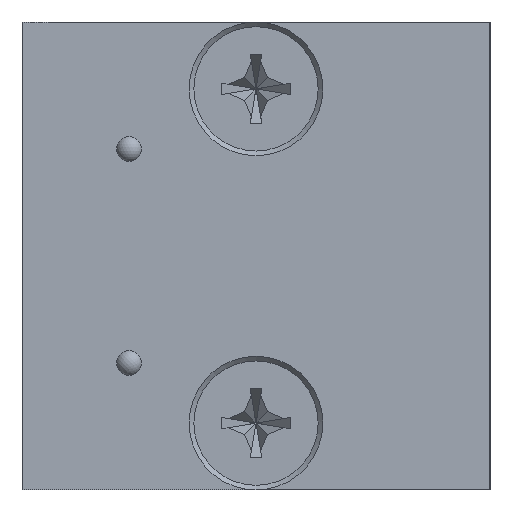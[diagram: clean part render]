
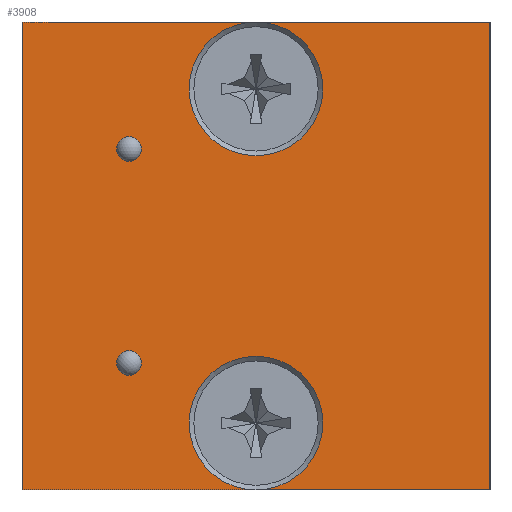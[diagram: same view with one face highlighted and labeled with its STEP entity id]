
A CAD part, left-side view. The second image highlights one B-rep face of the part: STEP entity #3908.
In plain terms, the highlighted planar face has unit normal (-1, 0, 0).
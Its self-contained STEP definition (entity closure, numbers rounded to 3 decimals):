
#55=LINE('',#5435,#360);
#57=LINE('',#5493,#362);
#60=LINE('',#5499,#365);
#61=LINE('',#5505,#366);
#62=LINE('',#5506,#367);
#63=LINE('',#5508,#368);
#360=VECTOR('',#4496,1000.);
#362=VECTOR('',#4514,1000.);
#365=VECTOR('',#4517,1000.);
#366=VECTOR('',#4526,1000.);
#367=VECTOR('',#4527,1000.);
#368=VECTOR('',#4528,1000.);
#665=PLANE('',#4169);
#929=ORIENTED_EDGE('',*,*,#1789,.T.);
#930=ORIENTED_EDGE('',*,*,#1788,.T.);
#931=ORIENTED_EDGE('',*,*,#1776,.T.);
#932=ORIENTED_EDGE('',*,*,#1791,.T.);
#933=ORIENTED_EDGE('',*,*,#1772,.T.);
#934=ORIENTED_EDGE('',*,*,#1792,.T.);
#935=ORIENTED_EDGE('',*,*,#1793,.T.);
#936=ORIENTED_EDGE('',*,*,#1785,.T.);
#937=ORIENTED_EDGE('',*,*,#1780,.T.);
#938=ORIENTED_EDGE('',*,*,#1794,.T.);
#1772=EDGE_CURVE('',#2258,#2258,#2597,.T.);
#1776=EDGE_CURVE('',#2263,#2262,#55,.T.);
#1780=EDGE_CURVE('',#2265,#2265,#2599,.T.);
#1785=EDGE_CURVE('',#2268,#2269,#57,.T.);
#1788=EDGE_CURVE('',#2269,#2263,#60,.T.);
#1789=EDGE_CURVE('',#2269,#2269,#2601,.T.);
#1791=EDGE_CURVE('',#2262,#2258,#61,.T.);
#1792=EDGE_CURVE('',#2258,#2272,#62,.T.);
#1793=EDGE_CURVE('',#2272,#2268,#63,.T.);
#1794=EDGE_CURVE('',#2273,#2273,#2603,.T.);
#2258=VERTEX_POINT('',#5426);
#2262=VERTEX_POINT('',#5434);
#2263=VERTEX_POINT('',#5436);
#2265=VERTEX_POINT('',#5460);
#2268=VERTEX_POINT('',#5494);
#2269=VERTEX_POINT('',#5495);
#2272=VERTEX_POINT('',#5507);
#2273=VERTEX_POINT('',#5510);
#2597=CIRCLE('',#4155,5.);
#2599=CIRCLE('',#4160,0.925);
#2601=CIRCLE('',#4167,5.);
#2603=CIRCLE('',#4170,0.925);
#2724=EDGE_LOOP('',(#929,#930,#931,#932,#933,#934,#935,#936));
#2725=EDGE_LOOP('',(#937));
#2726=EDGE_LOOP('',(#938));
#3007=FACE_BOUND('',#2724,.T.);
#3008=FACE_BOUND('',#2725,.T.);
#3009=FACE_BOUND('',#2726,.T.);
#3908=ADVANCED_FACE('',(#3007,#3008,#3009),#665,.T.);
#4155=AXIS2_PLACEMENT_3D('',#5425,#4488,#4489);
#4160=AXIS2_PLACEMENT_3D('',#5459,#4502,#4503);
#4167=AXIS2_PLACEMENT_3D('',#5501,#4520,#4521);
#4169=AXIS2_PLACEMENT_3D('',#5504,#4524,#4525);
#4170=AXIS2_PLACEMENT_3D('',#5509,#4529,#4530);
#4488=DIRECTION('',(1.,0.,0.));
#4489=DIRECTION('',(0.,1.,0.));
#4496=DIRECTION('',(0.,0.,1.));
#4502=DIRECTION('',(1.,0.,0.));
#4503=DIRECTION('',(0.,1.,0.));
#4514=DIRECTION('',(0.,-1.,0.));
#4517=DIRECTION('',(0.,-1.,0.));
#4520=DIRECTION('',(1.,0.,0.));
#4521=DIRECTION('',(0.,1.,0.));
#4524=DIRECTION('',(-1.,0.,0.));
#4525=DIRECTION('',(0.,-1.,0.));
#4526=DIRECTION('',(0.,1.,0.));
#4527=DIRECTION('',(0.,1.,0.));
#4528=DIRECTION('',(0.,0.,-1.));
#4529=DIRECTION('',(1.,0.,0.));
#4530=DIRECTION('',(0.,1.,0.));
#5425=CARTESIAN_POINT('',(-74.,0.,12.5));
#5426=CARTESIAN_POINT('',(-74.,0.,17.5));
#5434=CARTESIAN_POINT('',(-74.,-17.5,17.5));
#5435=CARTESIAN_POINT('',(-74.,-17.5,-17.5));
#5436=CARTESIAN_POINT('',(-74.,-17.5,-17.5));
#5459=CARTESIAN_POINT('',(-74.,9.5,8.));
#5460=CARTESIAN_POINT('',(-74.,10.425,8.));
#5493=CARTESIAN_POINT('',(-74.,17.5,-17.5));
#5494=CARTESIAN_POINT('',(-74.,17.5,-17.5));
#5495=CARTESIAN_POINT('',(-74.,0.,-17.5));
#5499=CARTESIAN_POINT('',(-74.,0.,-17.5));
#5501=CARTESIAN_POINT('',(-74.,0.,-12.5));
#5504=CARTESIAN_POINT('',(-74.,17.5,-17.5));
#5505=CARTESIAN_POINT('',(-74.,-17.5,17.5));
#5506=CARTESIAN_POINT('',(-74.,0.,17.5));
#5507=CARTESIAN_POINT('',(-74.,17.5,17.5));
#5508=CARTESIAN_POINT('',(-74.,17.5,17.5));
#5509=CARTESIAN_POINT('',(-74.,9.5,-8.));
#5510=CARTESIAN_POINT('',(-74.,10.425,-8.));
